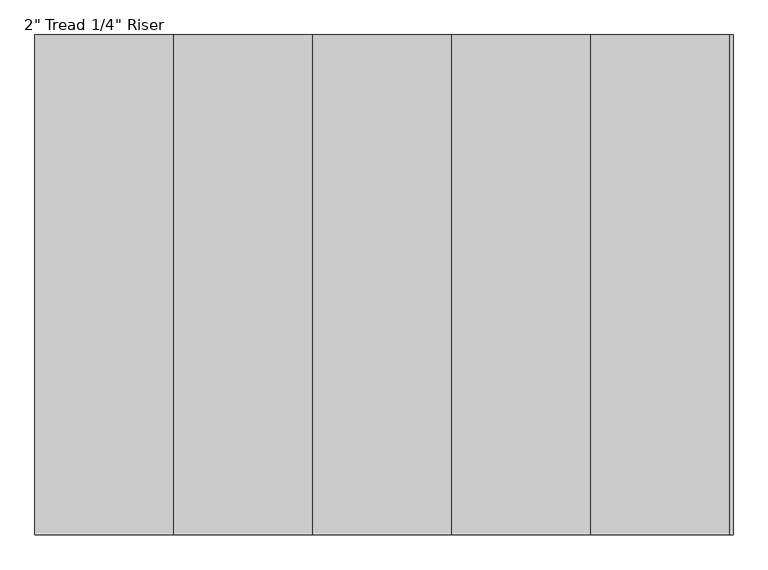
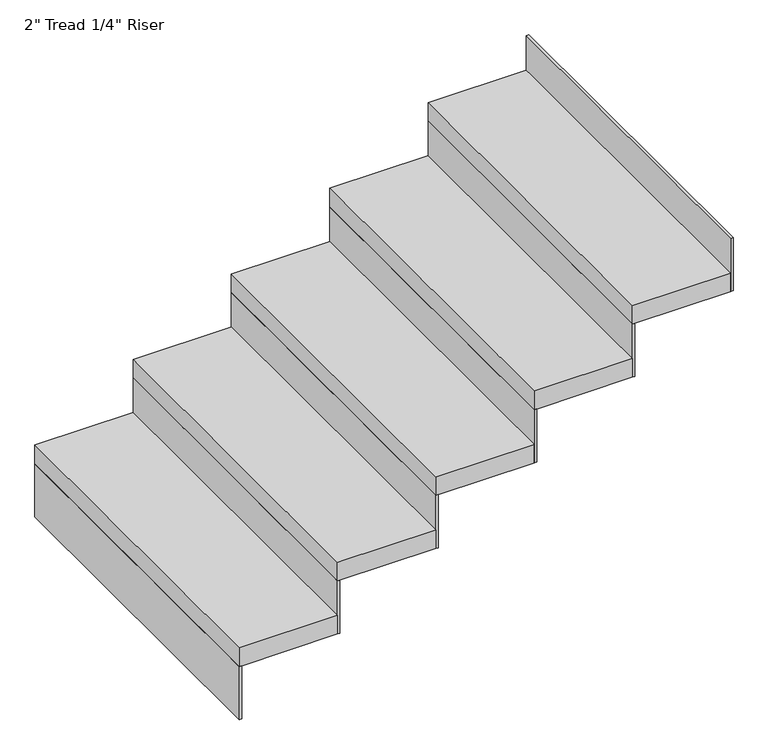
"""IFC4 building model written with IfcOpenShell, lengths in millimetres: stair flight geometry."""

import ifcopenshell
import ifcopenshell.guid

model = None  # the IFC model being written
_history = None  # IfcOwnerHistory: only IFC2X3 demands one
_inside = {}  # id of a spatial element -> (the spatial element, [elements in it])
_under = {}  # id of a project, library or spatial element -> (it, [spatial elements below it])
_declared = {}  # id of a project -> (the project, [libraries it declares])
_typed = {}  # id of a type object -> (the type object, [elements of that type])
_made_of = {}  # id of a material, layer set ... -> (it, [elements and type objects made of it])


def new_model(schema):
    """Start an empty IFC model of exactly this schema.

    Asked for "IFC4X3", IfcOpenShell would pick the latest addendum, in which some entities
    have other attributes; the version numbers below select the first issue.
    IFC2X3 requires an IfcOwnerHistory on every rooted entity: one is made here for all.
    """
    global model, _history
    if schema == "IFC4X3":
        model = ifcopenshell.file(schema_version=(4, 3, 0, 0))
    else:
        model = ifcopenshell.file(schema=schema)
    _inside.clear()
    _under.clear()
    _declared.clear()
    _typed.clear()
    _made_of.clear()
    _history = None
    if model.schema == "IFC2X3":
        org = make("IfcOrganization", Name="unknown")
        user = make(
            "IfcPersonAndOrganization",
            ThePerson=make("IfcPerson", FamilyName="unknown"),
            TheOrganization=org,
        )
        app = make(
            "IfcApplication",
            ApplicationDeveloper=org,
            Version="unknown",
            ApplicationFullName="unknown",
            ApplicationIdentifier="unknown",
        )
        _history = make(
            "IfcOwnerHistory",
            OwningUser=user,
            OwningApplication=app,
            ChangeAction="ADDED",
            CreationDate=0,
        )
    return model


def make(cls, **values):
    """One entity of the class cls with the attributes given. An attribute that is None is left unset."""
    return model.create_entity(
        cls, **{name: value for name, value in values.items() if value is not None}
    )


def rooted(cls, **values):
    """An entity with a GlobalId (a new one), such as an element, a storey or a relation."""
    return make(cls, GlobalId=ifcopenshell.guid.new(), OwnerHistory=_history, **values)


def si_unit(unit_type, name, prefix=None):
    """IfcSIUnit, for example si_unit("LENGTHUNIT", "METRE", prefix="MILLI")."""
    return make("IfcSIUnit", UnitType=unit_type, Prefix=prefix, Name=name)


def assignment(units):
    """IfcUnitAssignment: the units of a project."""
    return None if units is None else make("IfcUnitAssignment", Units=units)


def point(xyz):
    """IfcCartesianPoint."""
    return None if xyz is None else make("IfcCartesianPoint", Coordinates=xyz)


def direction(xyz):
    """IfcDirection."""
    return None if xyz is None else make("IfcDirection", DirectionRatios=xyz)


def frame(location, z_axis=None, x_axis=None):
    """IfcAxis2Placement3D, a coordinate frame: its origin and axes. An axis left out is left unset."""
    return make(
        "IfcAxis2Placement3D",
        Location=point(location),
        Axis=direction(z_axis),
        RefDirection=direction(x_axis),
    )


def origin():
    """The frame at (0, 0, 0) with its axes left unset."""
    return frame((0.0, 0.0, 0.0))


def place(relative_to, where):
    """IfcLocalPlacement: puts the frame where relative to a parent placement (None: the world)."""
    return make(
        "IfcLocalPlacement", PlacementRelTo=relative_to, RelativePlacement=where
    )


def context(
    kind, dimensions, precision=None, world=None, true_north=None, identifier=None
):
    """IfcGeometricRepresentationContext, for example the 3D "Model" context."""
    return make(
        "IfcGeometricRepresentationContext",
        ContextIdentifier=identifier,
        ContextType=kind,
        CoordinateSpaceDimension=dimensions,
        Precision=precision,
        WorldCoordinateSystem=world,
        TrueNorth=true_north,
    )


def project(units=None, contexts=None):
    """IfcProject with its units and contexts."""
    return rooted(
        "IfcProject",
        Name="project",
        RepresentationContexts=contexts,
        UnitsInContext=assignment(units),
    )


def spatial(cls, under=None, at=None, **own):
    """A site, building, storey or space (cls), placed at a placement, below another one or the project."""
    s = rooted(cls, ObjectPlacement=at, **own)
    if under is not None:
        _under.setdefault(under.id(), (under, []))[1].append(s)
    return s


def polyline(points):
    """IfcPolyline through the points."""
    return make("IfcPolyline", Points=[point(p) for p in points])


def outline(outer, holes=None, kind="AREA"):
    """IfcArbitraryClosedProfileDef: a profile drawn as a closed curve; with holes, ...WithVoids."""
    if holes is None:
        return make("IfcArbitraryClosedProfileDef", ProfileType=kind, OuterCurve=outer)
    return make(
        "IfcArbitraryProfileDefWithVoids",
        ProfileType=kind,
        OuterCurve=outer,
        InnerCurves=holes,
    )


def extrude(swept, where, along, depth):
    """IfcExtrudedAreaSolid: the profile swept, set in the frame where, extruded along a direction by depth."""
    return make(
        "IfcExtrudedAreaSolid",
        SweptArea=swept,
        Position=where,
        ExtrudedDirection=direction(along),
        Depth=depth,
    )


def shape(context_of_items, identifier, shape_type, items):
    """IfcShapeRepresentation: the items that make up one representation, for example the "Body"."""
    return make(
        "IfcShapeRepresentation",
        ContextOfItems=context_of_items,
        RepresentationIdentifier=identifier,
        RepresentationType=shape_type,
        Items=items,
    )


def source(mapping_origin, context_of_items, identifier, shape_type, items):
    """IfcRepresentationMap: a shape defined once, which mapped items show again and again."""
    return make(
        "IfcRepresentationMap",
        MappingOrigin=mapping_origin,
        MappedRepresentation=shape(context_of_items, identifier, shape_type, items),
    )


def transform(
    local_origin,
    x_axis=None,
    y_axis=None,
    z_axis=None,
    scale=None,
    scale2=None,
    scale3=None,
    uniform=True,
):
    """IfcCartesianTransformationOperator3D, or its non-uniform kind. x_axis, y_axis, z_axis: its Axis1, 2, 3."""
    if uniform:
        return make(
            "IfcCartesianTransformationOperator3D",
            Axis1=direction(x_axis),
            Axis2=direction(y_axis),
            LocalOrigin=point(local_origin),
            Scale=scale,
            Axis3=direction(z_axis),
        )
    return make(
        "IfcCartesianTransformationOperator3DnonUniform",
        Axis1=direction(x_axis),
        Axis2=direction(y_axis),
        LocalOrigin=point(local_origin),
        Scale=scale,
        Axis3=direction(z_axis),
        Scale2=scale2,
        Scale3=scale3,
    )


def mapped(mapping_source, mapping_target):
    """IfcMappedItem: shows the shape of a source again, moved by a transform."""
    return make(
        "IfcMappedItem", MappingSource=mapping_source, MappingTarget=mapping_target
    )


def made_of(thing, what):
    """Note that an element or type object is made of a material, layer set ...; save() writes the relation."""
    if what is not None:
        _made_of.setdefault(what.id(), (what, []))[1].append(thing)
    return thing


def element(
    cls,
    number,
    at=None,
    inside=None,
    cuts=None,
    type_object=None,
    material=None,
    context=None,
    identifier="Body",
    shape_type=None,
    held_by="IfcProductDefinitionShape",
    body=None,
    shapes=None,
    **own,
):
    """One element of the class cls, such as IfcWall. Its Tag is "e" and its number.

    at: its placement. inside: the storey or other place that contains it. cuts: it is an
    opening in that element (IfcRelVoidsElement). A single representation is given by context,
    identifier, shape_type and body (its items); several are given by shapes. held_by: the class
    of the entity that holds the representations. save() writes the other relations.
    """
    e = rooted(cls, Tag="e%d" % number, ObjectPlacement=at, **own)
    if body is not None:
        shapes = [shape(context, identifier, shape_type, body)]
    if shapes is not None:
        e.Representation = make(held_by, Representations=shapes)
    if inside is not None:
        _inside.setdefault(inside.id(), (inside, []))[1].append(e)
    if cuts is not None:
        rooted(
            "IfcRelVoidsElement", RelatingBuildingElement=cuts, RelatedOpeningElement=e
        )
    if type_object is not None:
        _typed.setdefault(type_object.id(), (type_object, []))[1].append(e)
    return made_of(e, material)


def aggregate(whole, parts):
    """IfcRelAggregates: a whole, such as a stair, and the parts it consists of."""
    return rooted("IfcRelAggregates", RelatingObject=whole, RelatedObjects=parts)


def save(model, path):
    """Write the relations noted so far, then the file.

    IfcRelAggregates (storeys below a building ...), IfcRelContainedInSpatialStructure (elements
    in a storey), IfcRelDefinesByType, IfcRelAssociatesMaterial and IfcRelDeclares: one each for
    every whole, place, type object, material and project.
    """
    for whole, parts in _under.values():
        aggregate(whole, parts)
    for where, things in _inside.values():
        rooted(
            "IfcRelContainedInSpatialStructure",
            RelatedElements=things,
            RelatingStructure=where,
        )
    for kind, things in _typed.values():
        rooted("IfcRelDefinesByType", RelatedObjects=things, RelatingType=kind)
    for what, things in _made_of.values():
        rooted("IfcRelAssociatesMaterial", RelatedObjects=things, RelatingMaterial=what)
    for by, libraries in _declared.values():
        rooted("IfcRelDeclares", RelatingContext=by, RelatedDefinitions=libraries)
    model.write(path)


def stair_flight_4947435c(model_context):
    return source(origin(), model_context, "Body", "SweptSolid", [
        extrude(outline(polyline([(162833.3711992, 15854.8539886), (162827.0211992, 15854.8539886), (162827.0211992, 16769.2539886), (162833.3711992, 16769.2539886), (162833.3711992, 15854.8539886)])), frame((0.0, 0.0, 2126.3428571), z_axis=(0.0, 0.0, 1.0), x_axis=(1.0, 0.0, 0.0)), (0.0, 0.0, 1.0), 145.1428571),
        extrude(outline(polyline([(163081.0211992, 16769.2539886), (163081.0211992, 15854.8539886), (162827.0211992, 15854.8539886), (162827.0211992, 16769.2539886), (163081.0211992, 16769.2539886)])), frame((0.0, 0.0, 2271.4857143), z_axis=(0.0, 0.0, 1.0), x_axis=(1.0, 0.0, 0.0)), (0.0, 0.0, 1.0), 50.8),
        extrude(outline(polyline([(163087.3711992, 15854.8539886), (163081.0211992, 15854.8539886), (163081.0211992, 16769.2539886), (163087.3711992, 16769.2539886), (163087.3711992, 15854.8539886)])), frame((0.0, 0.0, 2271.4857143), z_axis=(0.0, 0.0, 1.0), x_axis=(1.0, 0.0, 0.0)), (0.0, 0.0, 1.0), 145.1428571),
        extrude(outline(polyline([(163335.0211992, 16769.2539886), (163335.0211992, 15854.8539886), (163081.0211992, 15854.8539886), (163081.0211992, 16769.2539886), (163335.0211992, 16769.2539886)])), frame((0.0, 0.0, 2416.6285714), z_axis=(0.0, 0.0, 1.0), x_axis=(1.0, 0.0, 0.0)), (0.0, 0.0, 1.0), 50.8),
        extrude(outline(polyline([(163341.3711992, 15854.8539886), (163335.0211992, 15854.8539886), (163335.0211992, 16769.2539886), (163341.3711992, 16769.2539886), (163341.3711992, 15854.8539886)])), frame((0.0, 0.0, 2416.6285714), z_axis=(0.0, 0.0, 1.0), x_axis=(1.0, 0.0, 0.0)), (0.0, 0.0, 1.0), 145.1428571),
        extrude(outline(polyline([(163589.0211992, 16769.2539886), (163589.0211992, 15854.8539886), (163335.0211992, 15854.8539886), (163335.0211992, 16769.2539886), (163589.0211992, 16769.2539886)])), frame((0.0, 0.0, 2561.7714286), z_axis=(0.0, 0.0, 1.0), x_axis=(1.0, 0.0, 0.0)), (0.0, 0.0, 1.0), 50.8),
        extrude(outline(polyline([(163595.3711992, 15854.8539886), (163589.0211992, 15854.8539886), (163589.0211992, 16769.2539886), (163595.3711992, 16769.2539886), (163595.3711992, 15854.8539886)])), frame((0.0, 0.0, 2561.7714286), z_axis=(0.0, 0.0, 1.0), x_axis=(1.0, 0.0, 0.0)), (0.0, 0.0, 1.0), 145.1428571),
        extrude(outline(polyline([(163843.0211992, 16769.2539886), (163843.0211992, 15854.8539886), (163589.0211992, 15854.8539886), (163589.0211992, 16769.2539886), (163843.0211992, 16769.2539886)])), frame((0.0, 0.0, 2706.9142857), z_axis=(0.0, 0.0, 1.0), x_axis=(1.0, 0.0, 0.0)), (0.0, 0.0, 1.0), 50.8),
        extrude(outline(polyline([(163849.3711992, 15854.8539886), (163843.0211992, 15854.8539886), (163843.0211992, 16769.2539886), (163849.3711992, 16769.2539886), (163849.3711992, 15854.8539886)])), frame((0.0, 0.0, 2706.9142857), z_axis=(0.0, 0.0, 1.0), x_axis=(1.0, 0.0, 0.0)), (0.0, 0.0, 1.0), 145.1428571),
        extrude(outline(polyline([(164103.3711992, 15854.8539886), (164097.0211992, 15854.8539886), (164097.0211992, 16769.2539886), (164103.3711992, 16769.2539886), (164103.3711992, 15854.8539886)])), frame((0.0, 0.0, 2852.0571429), z_axis=(0.0, 0.0, 1.0), x_axis=(1.0, 0.0, 0.0)), (0.0, 0.0, 1.0), 145.1428571),
        extrude(outline(polyline([(164097.0211992, 16769.2539886), (164097.0211992, 15854.8539886), (163843.0211992, 15854.8539886), (163843.0211992, 16769.2539886), (164097.0211992, 16769.2539886)])), frame((0.0, 0.0, 2852.0571429), z_axis=(0.0, 0.0, 1.0), x_axis=(1.0, 0.0, 0.0)), (0.0, 0.0, 1.0), 50.8),
    ])


if __name__ == "__main__":
    model = new_model("IFC4")
    model_context = context("Model", 3, world=origin())
    ifc_project = project(units=[si_unit("LENGTHUNIT", "METRE", prefix="MILLI")], contexts=[model_context])
    site = spatial("IfcSite", under=ifc_project)
    building = spatial("IfcBuilding", under=site)
    placement = place(None, origin())
    stair_flight_shape = stair_flight_4947435c(model_context)
    element("IfcStairFlight", 1, ObjectType="2\" Tread 1/4\" Riser", at=placement, inside=building, context=model_context, shape_type="MappedRepresentation", body=[
        mapped(stair_flight_shape, transform((0.0, 0.0, 0.0), x_axis=(1.0, 0.0, 0.0), y_axis=(0.0, 1.0, 0.0), z_axis=(0.0, 0.0, 1.0))),
    ])
    save(model, "model.ifc")
